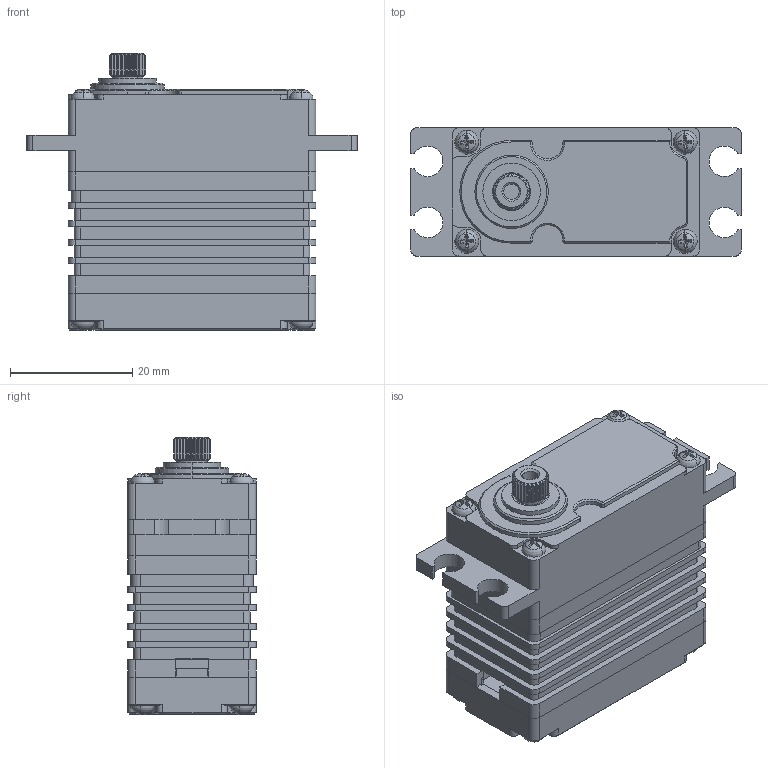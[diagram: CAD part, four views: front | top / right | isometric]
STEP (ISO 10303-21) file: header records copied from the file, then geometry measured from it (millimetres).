
FILE_DESCRIPTION (( 'STEP AP214' ), '1' );
FILE_NAME ('X20-8.4-50_DM.STEP', '2023-11-08T09:33:52', ( '' ), ( '' ), 'SwSTEP 2.0', 'SolidWorks 2016', '' );
FILE_SCHEMA (( 'AUTOMOTIVE_DESIGN' ));
Length unit declared in the file: millimetre
Products named in the file (1): X20-8.4-50_DM
Bounding box: 54 x 21 x 45.36 mm (x, y, z)
Surface area: 10400.5 mm2 (no closed solid volume)
Topology: 0 solids, 14 shells, 553 faces, 1535 edges, 1005 vertices
Faces by surface type: plane 304, cylinder 173, cone 44, sphere 16, torus 16
Entity records: 24266 total; most frequent: CARTESIAN_POINT 3986, DIRECTION 3021, ORIENTED_EDGE 2902, EDGE_CURVE 1535, AXIS2_PLACEMENT_3D 1112, VERTEX_POINT 1005, VECTOR 797, LINE 797
